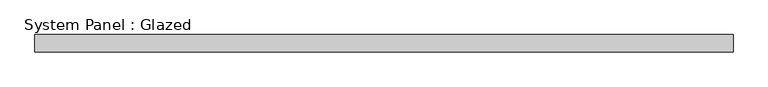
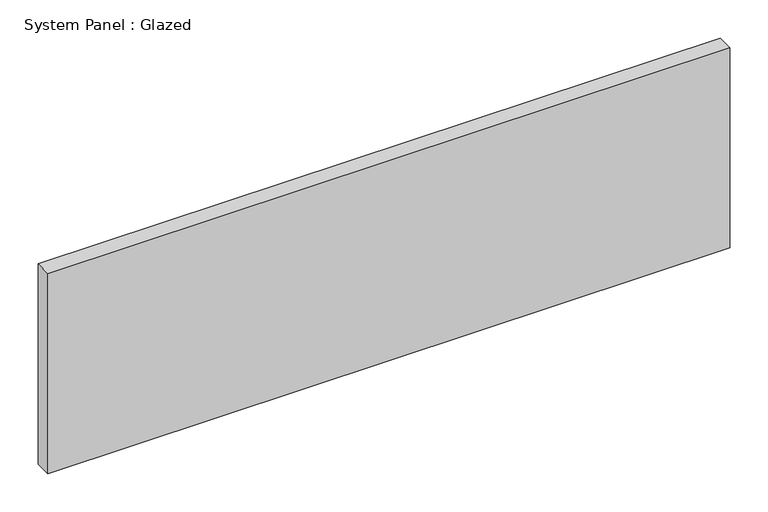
"""IFC4 building model written with IfcOpenShell, lengths in millimetres: plate geometry, System Panel : Glazed."""

from ifc_helpers import new_model, si_unit, origin, origin_with_axes, place, context, project, spatial, polyline, outline, extrude, source, transform, mapped, element, save


def system_panel_glazed_b422b8c1(model_context):
    return source(origin(), model_context, "Body", "SweptSolid", [
        extrude(outline(polyline([(516.255, 19.05), (-516.255, 19.05), (-516.255, 44.45), (516.255, 44.45), (516.255, 19.05)])), origin_with_axes(), (0.0, 0.0, 1.0), 320.2027241),
    ])


if __name__ == "__main__":
    model = new_model("IFC4")
    model_context = context("Model", 3, world=origin())
    ifc_project = project(units=[si_unit("LENGTHUNIT", "METRE", prefix="MILLI")], contexts=[model_context])
    site = spatial("IfcSite", under=ifc_project)
    building = spatial("IfcBuilding", under=site)
    placement = place(None, origin())
    system_panel_glazed_shape = system_panel_glazed_b422b8c1(model_context)
    element("IfcPlate", 1, ObjectType="System Panel : Glazed", at=placement, inside=building, context=model_context, shape_type="MappedRepresentation", body=[
        mapped(system_panel_glazed_shape, transform((0.0, 0.0, 0.0), x_axis=(1.0, 0.0, 0.0), y_axis=(0.0, 1.0, 0.0), z_axis=(0.0, 0.0, 1.0))),
    ])
    save(model, "model.ifc")
